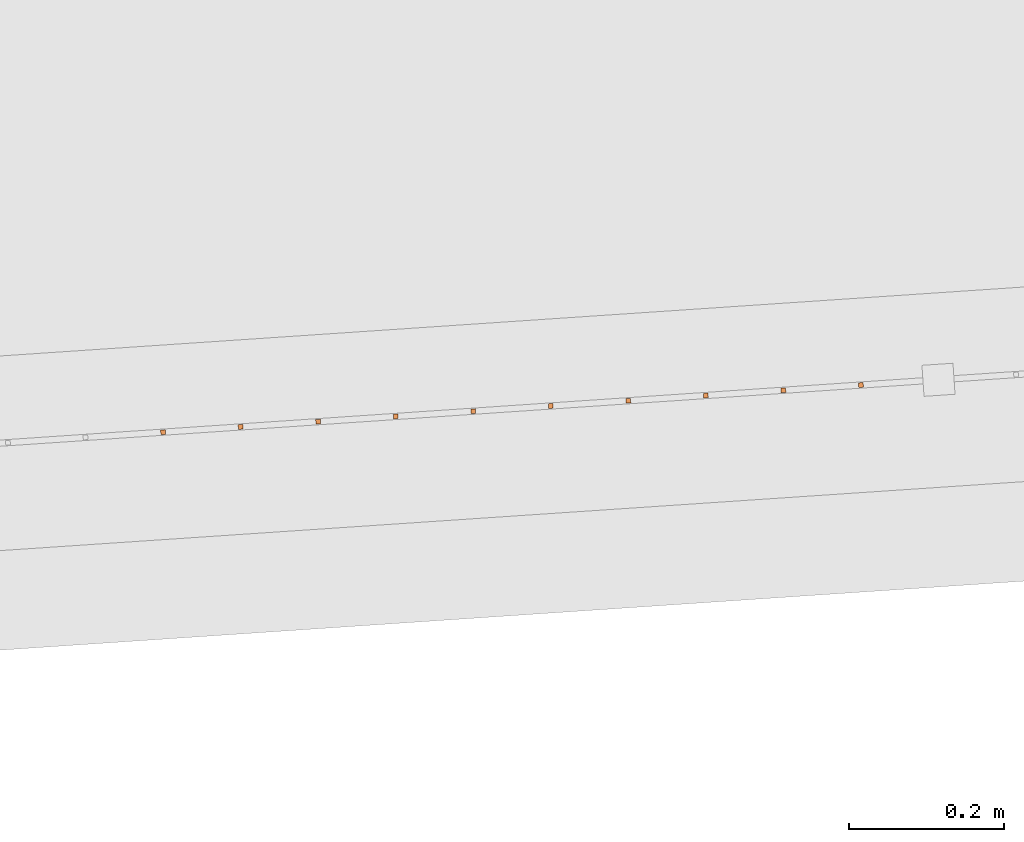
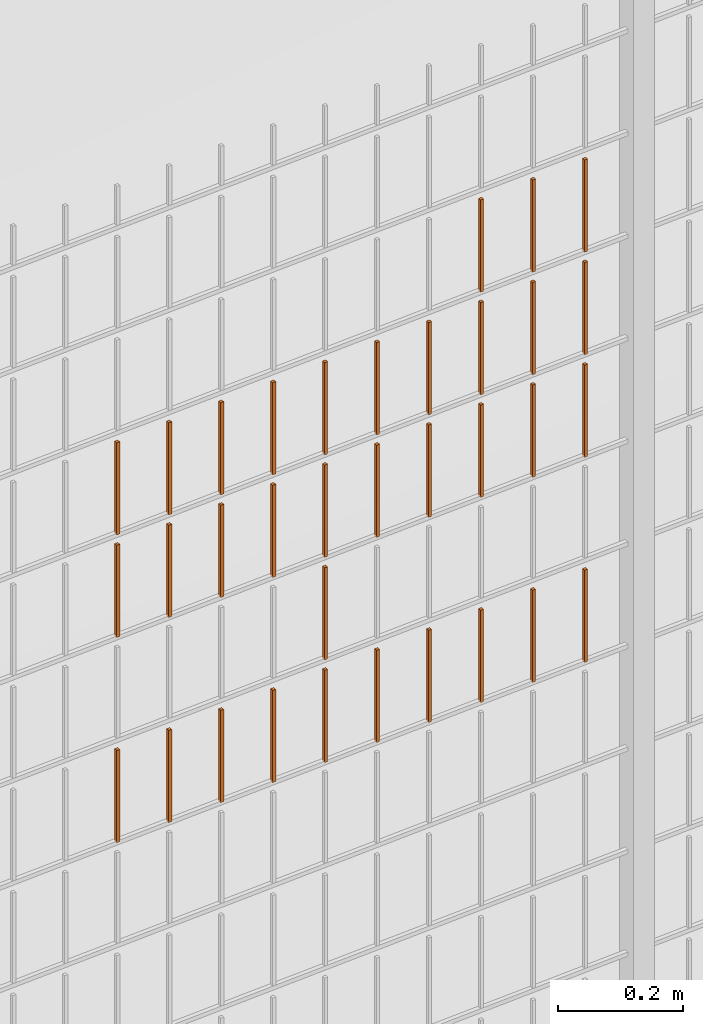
# One storey, part 179 of 1809: 34 proxies, 1 element without a shape of its own.
"""IFC2X3 building model written with IfcOpenShell, lengths in millimetres."""

from ifc_helpers import new_model, entity, si_unit, converted_unit, derived_unit, money_unit, direction, frame, origin_with_axes, place, context, subcontext, project, spatial, faceted_brep, source, transform, mapped, material, type_object, element, aggregate, save


model = new_model("IFC2X3")

# Units and contexts
model_context = context("Model", 3, precision=0.01, world=origin_with_axes(), true_north=direction((0.0, 1.0)))
body_context = subcontext(model_context, "Body", "Model", "MODEL_VIEW")
ifc_project = project(units=[si_unit("LENGTHUNIT", "METRE", prefix="MILLI"), si_unit("AREAUNIT", "SQUARE_METRE"), si_unit("VOLUMEUNIT", "CUBIC_METRE"), converted_unit("PLANEANGLEUNIT", "DEGREE", entity("IfcPlaneAngleMeasure", 0.0174532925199), si_unit("PLANEANGLEUNIT", "RADIAN"), dimensions=[0, 0, 0, 0, 0, 0, 0]), si_unit("SOLIDANGLEUNIT", "STERADIAN"), money_unit("EUR"), converted_unit("TIMEUNIT", "Year", entity("IfcTimeMeasure", 31556926.0), si_unit("TIMEUNIT", "SECOND"), dimensions=[0, 0, 1, 0, 0, 0, 0]), si_unit("MASSUNIT", "GRAM", prefix="KILO"), si_unit("THERMODYNAMICTEMPERATUREUNIT", "DEGREE_CELSIUS"), si_unit("LUMINOUSINTENSITYUNIT", "LUMEN"), si_unit("ENERGYUNIT", "JOULE", prefix="MEGA"), derived_unit("THERMALCONDUCTANCEUNIT", [(si_unit("POWERUNIT", "WATT"), 1), (si_unit("LENGTHUNIT", "METRE"), -1), (si_unit("THERMODYNAMICTEMPERATUREUNIT", "KELVIN"), -1)]), derived_unit("SPECIFICHEATCAPACITYUNIT", [(si_unit("ENERGYUNIT", "JOULE"), 1), (si_unit("MASSUNIT", "GRAM", prefix="KILO"), -1), (si_unit("THERMODYNAMICTEMPERATUREUNIT", "KELVIN"), -1)]), derived_unit("MASSDENSITYUNIT", [(si_unit("MASSUNIT", "GRAM", prefix="KILO"), 1), (si_unit("VOLUMEUNIT", "CUBIC_METRE"), -1)])], contexts=[model_context])

# Site, building, storey
site_placement = place(None, origin_with_axes())
site = spatial("IfcSite", under=ifc_project, at=site_placement, Name="Politse- ja Piirivalveameti ning Päästeameti ühishoone", CompositionType="ELEMENT")
building_placement = place(site_placement, origin_with_axes())
building = spatial("IfcBuilding", under=site, at=building_placement, Name="Politse- ja Piirivalveameti ning Päästeameti ühishoone", CompositionType="ELEMENT")
storey_placement = place(building_placement, origin_with_axes())
storey = spatial("IfcBuildingStorey", under=building, at=storey_placement, Name="Esimene korrus", CompositionType="ELEMENT", Elevation=0.0)

# Proxies
building_element_proxy_type_1 = type_object("IfcBuildingElementProxyType", Name="Railing Type", PredefinedType="NOTDEFINED")
proxy_1_placement = place(storey_placement, frame((89252.001212, -29183.4766571, 203.661247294), z_axis=(0.0, 0.0, 1.0), x_axis=(1.0, 0.0, 0.0)))
proxy_1 = element("IfcBuildingElementProxy", 1, at=proxy_1_placement, inside=storey, type_object=building_element_proxy_type_1, Name="PIIRDEAED")
ifc_material = material(Name="ET-03_Raud")
building_element_proxy_type_2 = type_object("IfcBuildingElementProxyType", Name="IfcBuildingElementProxy", PredefinedType="NOTDEFINED")
shared_shape_1 = source(origin_with_axes(), body_context, "Body", "Brep", [
    faceted_brep([(3.0, 3.0, -0.000752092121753), (-3.0, 3.0, -0.000752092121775), (-3.0, 3.0, 179.99926046), (3.0, 3.0, 179.99926046), (3.0, -3.0, 0.000752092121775), (-3.0, -3.0, 0.000752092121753), (-3.0, -3.0, 180.000764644), (3.0, -3.0, 180.000764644)], [[[0, 1, 2, 3]], [[0, 4, 5, 1]], [[1, 5, 6, 2]], [[3, 2, 6, 7]], [[4, 0, 3, 7]], [[5, 4, 7, 6]]]),
])
proxy_2_placement = place(proxy_1_placement, frame((-72262.0280841, -22178.8020516, 809.077205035), z_axis=(0.0, 0.0, 1.0), x_axis=(1.0, 0.0, 0.0)))
proxy_2 = element("IfcBuildingElementProxy", 2, at=proxy_2_placement, type_object=building_element_proxy_type_2, material=ifc_material, Name="BALUSTER - 001", context=body_context, shape_type="MappedRepresentation", body=[
    mapped(shared_shape_1, transform((0.0, 0.0, 0.0), x_axis=(-0.0673926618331, 0.997726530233, 0.0), y_axis=(-0.997726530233, -0.0673926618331, 0.0), z_axis=(0.0, 0.0, 1.0))),
])
shared_shape_2 = source(origin_with_axes(), body_context, "Body", "Brep", [
    faceted_brep([(3.0, 3.0, -0.000752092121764), (-3.0, 3.0, -0.000752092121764), (-3.0, 3.0, 179.99926046), (3.0, 3.0, 179.99926046), (3.0, -3.0, 0.000752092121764), (-3.0, -3.0, 0.000752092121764), (-3.0, -3.0, 180.000764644), (3.0, -3.0, 180.000764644)], [[[0, 1, 2, 3]], [[0, 4, 5, 1]], [[1, 5, 6, 2]], [[3, 2, 6, 7]], [[4, 0, 3, 7]], [[5, 4, 7, 6]]]),
])
proxy_3_placement = place(proxy_1_placement, frame((-72561.3460431, -22199.0198502, 809.001995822), z_axis=(0.0, 0.0, 1.0), x_axis=(1.0, 0.0, 0.0)))
proxy_3 = element("IfcBuildingElementProxy", 3, at=proxy_3_placement, type_object=building_element_proxy_type_2, material=ifc_material, Name="BALUSTER - 001", context=body_context, shape_type="MappedRepresentation", body=[
    mapped(shared_shape_2, transform((0.0, 0.0, 0.0), x_axis=(-0.0673926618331, 0.997726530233, 0.0), y_axis=(-0.997726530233, -0.0673926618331, 0.0), z_axis=(0.0, 0.0, 1.0))),
])
shared_shape_3 = source(origin_with_axes(), body_context, "Body", "Brep", [
    faceted_brep([(3.0, 3.0, -0.000752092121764), (-3.0, 3.0, -0.000752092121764), (-3.0, 3.0, 179.99926046), (3.0, 3.0, 179.99926046), (3.0, -3.0, 0.000752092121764), (-3.0, -3.0, 0.000752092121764), (-3.0, -3.0, 180.000764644), (3.0, -3.0, 180.000764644)], [[[0, 1, 2, 3]], [[0, 4, 5, 1]], [[1, 5, 6, 2]], [[3, 2, 6, 7]], [[4, 0, 3, 7]], [[5, 4, 7, 6]]]),
])
proxy_4_placement = place(proxy_1_placement, frame((-72760.8913492, -22212.4983825, 808.951856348), z_axis=(0.0, 0.0, 1.0), x_axis=(1.0, 0.0, 0.0)))
proxy_4 = element("IfcBuildingElementProxy", 4, at=proxy_4_placement, type_object=building_element_proxy_type_2, material=ifc_material, Name="BALUSTER - 001", context=body_context, shape_type="MappedRepresentation", body=[
    mapped(shared_shape_3, transform((0.0, 0.0, 0.0), x_axis=(-0.0673926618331, 0.997726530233, 0.0), y_axis=(-0.997726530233, -0.0673926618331, 0.0), z_axis=(0.0, 0.0, 1.0))),
])
proxy_5_placement = place(proxy_1_placement, frame((-72760.8913492, -22212.4983825, 1208.95185635), z_axis=(0.0, 0.0, 1.0), x_axis=(1.0, 0.0, 0.0)))
proxy_5 = element("IfcBuildingElementProxy", 5, at=proxy_5_placement, type_object=building_element_proxy_type_2, material=ifc_material, Name="BALUSTER - 001", context=body_context, shape_type="MappedRepresentation", body=[
    mapped(shared_shape_3, transform((0.0, 0.0, 0.0), x_axis=(-0.0673926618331, 0.997726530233, 0.0), y_axis=(-0.997726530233, -0.0673926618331, 0.0), z_axis=(0.0, 0.0, 1.0))),
])
shared_shape_4 = source(origin_with_axes(), body_context, "Body", "Brep", [
    faceted_brep([(3.0, 3.0, -0.000752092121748), (-3.0, 3.0, -0.00075209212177), (-3.0, 3.0, 179.99926046), (3.0, 3.0, 179.99926046), (3.0, -3.0, 0.00075209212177), (-3.0, -3.0, 0.000752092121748), (-3.0, -3.0, 180.000764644), (3.0, -3.0, 180.000764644)], [[[0, 1, 2, 3]], [[0, 4, 5, 1]], [[1, 5, 6, 2]], [[3, 2, 6, 7]], [[4, 0, 3, 7]], [[5, 4, 7, 6]]]),
])
proxy_6_placement = place(proxy_1_placement, frame((-72361.8007371, -22185.5413178, 809.052135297), z_axis=(0.0, 0.0, 1.0), x_axis=(1.0, 0.0, 0.0)))
proxy_6 = element("IfcBuildingElementProxy", 6, at=proxy_6_placement, type_object=building_element_proxy_type_2, material=ifc_material, Name="BALUSTER - 001", context=body_context, shape_type="MappedRepresentation", body=[
    mapped(shared_shape_4, transform((0.0, 0.0, 0.0), x_axis=(-0.0673926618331, 0.997726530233, 0.0), y_axis=(-0.997726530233, -0.0673926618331, 0.0), z_axis=(0.0, 0.0, 1.0))),
])
proxy_7_placement = place(proxy_1_placement, frame((-73060.2093082, -22232.7161811, 1208.87664714), z_axis=(0.0, 0.0, 1.0), x_axis=(1.0, 0.0, 0.0)))
proxy_7 = element("IfcBuildingElementProxy", 7, at=proxy_7_placement, type_object=building_element_proxy_type_2, material=ifc_material, Name="BALUSTER - 001", context=body_context, shape_type="MappedRepresentation", body=[
    mapped(shared_shape_4, transform((0.0, 0.0, 0.0), x_axis=(-0.0673926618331, 0.997726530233, 0.0), y_axis=(-0.997726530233, -0.0673926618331, 0.0), z_axis=(0.0, 0.0, 1.0))),
])
shared_shape_5 = source(origin_with_axes(), body_context, "Body", "Brep", [
    faceted_brep([(3.0, 3.0, -0.000752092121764), (-3.0, 3.0, -0.000752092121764), (-3.0, 3.0, 179.99926046), (3.0, 3.0, 179.99926046), (3.0, -3.0, 0.000752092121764), (-3.0, -3.0, 0.000752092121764), (-3.0, -3.0, 180.000764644), (3.0, -3.0, 180.000764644)], [[[0, 1, 2, 3]], [[0, 4, 5, 1]], [[1, 5, 6, 2]], [[3, 2, 6, 7]], [[4, 0, 3, 7]], [[5, 4, 7, 6]]]),
])
proxy_8_placement = place(proxy_1_placement, frame((-72661.1186962, -22205.7591164, 808.976926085), z_axis=(0.0, 0.0, 1.0), x_axis=(1.0, 0.0, 0.0)))
proxy_8 = element("IfcBuildingElementProxy", 8, at=proxy_8_placement, type_object=building_element_proxy_type_2, material=ifc_material, Name="BALUSTER - 001", context=body_context, shape_type="MappedRepresentation", body=[
    mapped(shared_shape_5, transform((0.0, 0.0, 0.0), x_axis=(-0.0673926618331, 0.997726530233, 0.0), y_axis=(-0.997726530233, -0.0673926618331, 0.0), z_axis=(0.0, 0.0, 1.0))),
])
shared_shape_6 = source(origin_with_axes(), body_context, "Body", "Brep", [
    faceted_brep([(3.0, 3.0, -0.000752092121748), (-3.0, 3.0, -0.00075209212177), (-3.0, 3.0, 179.99926046), (3.0, 3.0, 179.99926046), (3.0, -3.0, 0.00075209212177), (-3.0, -3.0, 0.000752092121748), (-3.0, -3.0, 180.000764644), (3.0, -3.0, 180.000764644)], [[[0, 1, 2, 3]], [[0, 4, 5, 1]], [[1, 5, 6, 2]], [[3, 2, 6, 7]], [[4, 0, 3, 7]], [[5, 4, 7, 6]]]),
])
proxy_9_placement = place(proxy_1_placement, frame((-72461.5733901, -22192.280584, 809.02706556), z_axis=(0.0, 0.0, 1.0), x_axis=(1.0, 0.0, 0.0)))
proxy_9 = element("IfcBuildingElementProxy", 9, at=proxy_9_placement, type_object=building_element_proxy_type_2, material=ifc_material, Name="BALUSTER - 001", context=body_context, shape_type="MappedRepresentation", body=[
    mapped(shared_shape_6, transform((0.0, 0.0, 0.0), x_axis=(-0.0673926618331, 0.997726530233, 0.0), y_axis=(-0.997726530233, -0.0673926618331, 0.0), z_axis=(0.0, 0.0, 1.0))),
])
proxy_10_placement = place(proxy_1_placement, frame((-73159.9819613, -22239.4554473, 808.851577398), z_axis=(0.0, 0.0, 1.0), x_axis=(1.0, 0.0, 0.0)))
proxy_10 = element("IfcBuildingElementProxy", 10, at=proxy_10_placement, type_object=building_element_proxy_type_2, material=ifc_material, Name="BALUSTER - 001", context=body_context, shape_type="MappedRepresentation", body=[
    mapped(shared_shape_6, transform((0.0, 0.0, 0.0), x_axis=(-0.0673926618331, 0.997726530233, 0.0), y_axis=(-0.997726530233, -0.0673926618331, 0.0), z_axis=(0.0, 0.0, 1.0))),
])
proxy_11_placement = place(proxy_1_placement, frame((-72461.5733901, -22192.280584, 1209.02706556), z_axis=(0.0, 0.0, 1.0), x_axis=(1.0, 0.0, 0.0)))
proxy_11 = element("IfcBuildingElementProxy", 11, at=proxy_11_placement, type_object=building_element_proxy_type_2, material=ifc_material, Name="BALUSTER - 001", context=body_context, shape_type="MappedRepresentation", body=[
    mapped(shared_shape_6, transform((0.0, 0.0, 0.0), x_axis=(-0.0673926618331, 0.997726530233, 0.0), y_axis=(-0.997726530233, -0.0673926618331, 0.0), z_axis=(0.0, 0.0, 1.0))),
])
shared_shape_7 = source(origin_with_axes(), body_context, "Body", "Brep", [
    faceted_brep([(3.0, 3.0, -0.000752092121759), (-3.0, 3.0, -0.000752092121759), (-3.0, 3.0, 179.99926046), (3.0, 3.0, 179.99926046), (3.0, -3.0, 0.000752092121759), (-3.0, -3.0, 0.000752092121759), (-3.0, -3.0, 180.000764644), (3.0, -3.0, 180.000764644)], [[[0, 1, 2, 3]], [[0, 4, 5, 1]], [[1, 5, 6, 2]], [[3, 2, 6, 7]], [[4, 0, 3, 7]], [[5, 4, 7, 6]]]),
])
proxy_12_placement = place(proxy_1_placement, frame((-72661.1186962, -22205.7591164, 1208.97692608), z_axis=(0.0, 0.0, 1.0), x_axis=(1.0, 0.0, 0.0)))
proxy_12 = element("IfcBuildingElementProxy", 12, at=proxy_12_placement, type_object=building_element_proxy_type_2, material=ifc_material, Name="BALUSTER - 001", context=body_context, shape_type="MappedRepresentation", body=[
    mapped(shared_shape_7, transform((0.0, 0.0, 0.0), x_axis=(-0.0673926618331, 0.997726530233, 0.0), y_axis=(-0.997726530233, -0.0673926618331, 0.0), z_axis=(0.0, 0.0, 1.0))),
])
shared_shape_8 = source(origin_with_axes(), body_context, "Body", "Brep", [
    faceted_brep([(3.0, 3.0, -0.000752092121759), (-3.0, 3.0, -0.000752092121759), (-3.0, 3.0, 179.99926046), (3.0, 3.0, 179.99926046), (3.0, -3.0, 0.000752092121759), (-3.0, -3.0, 0.000752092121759), (-3.0, -3.0, 180.000764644), (3.0, -3.0, 180.000764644)], [[[0, 1, 2, 3]], [[0, 4, 5, 1]], [[1, 5, 6, 2]], [[3, 2, 6, 7]], [[4, 0, 3, 7]], [[5, 4, 7, 6]]]),
])
proxy_13_placement = place(proxy_1_placement, frame((-72561.3460431, -22199.0198502, 1209.00199582), z_axis=(0.0, 0.0, 1.0), x_axis=(1.0, 0.0, 0.0)))
proxy_13 = element("IfcBuildingElementProxy", 13, at=proxy_13_placement, type_object=building_element_proxy_type_2, material=ifc_material, Name="BALUSTER - 001", context=body_context, shape_type="MappedRepresentation", body=[
    mapped(shared_shape_8, transform((0.0, 0.0, 0.0), x_axis=(-0.0673926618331, 0.997726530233, 0.0), y_axis=(-0.997726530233, -0.0673926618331, 0.0), z_axis=(0.0, 0.0, 1.0))),
])
shared_shape_9 = source(origin_with_axes(), body_context, "Body", "Brep", [
    faceted_brep([(3.0, 3.0, -0.000752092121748), (-3.0, 3.0, -0.00075209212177), (-3.0, 3.0, 179.99926046), (3.0, 3.0, 179.99926046), (3.0, -3.0, 0.00075209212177), (-3.0, -3.0, 0.000752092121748), (-3.0, -3.0, 180.000764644), (3.0, -3.0, 180.000764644)], [[[0, 1, 2, 3]], [[0, 4, 5, 1]], [[1, 5, 6, 2]], [[3, 2, 6, 7]], [[4, 0, 3, 7]], [[5, 4, 7, 6]]]),
])
proxy_14_placement = place(proxy_1_placement, frame((-72361.8007371, -22185.5413178, 1209.0521353), z_axis=(0.0, 0.0, 1.0), x_axis=(1.0, 0.0, 0.0)))
proxy_14 = element("IfcBuildingElementProxy", 14, at=proxy_14_placement, type_object=building_element_proxy_type_2, material=ifc_material, Name="BALUSTER - 001", context=body_context, shape_type="MappedRepresentation", body=[
    mapped(shared_shape_9, transform((0.0, 0.0, 0.0), x_axis=(-0.0673926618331, 0.997726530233, 0.0), y_axis=(-0.997726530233, -0.0673926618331, 0.0), z_axis=(0.0, 0.0, 1.0))),
])
shared_shape_10 = source(origin_with_axes(), body_context, "Body", "Brep", [
    faceted_brep([(3.0, 3.0, -0.000752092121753), (-3.0, 3.0, -0.000752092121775), (-3.0, 3.0, 179.99926046), (3.0, 3.0, 179.99926046), (3.0, -3.0, 0.000752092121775), (-3.0, -3.0, 0.000752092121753), (-3.0, -3.0, 180.000764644), (3.0, -3.0, 180.000764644)], [[[0, 1, 2, 3]], [[0, 4, 5, 1]], [[1, 5, 6, 2]], [[3, 2, 6, 7]], [[4, 0, 3, 7]], [[5, 4, 7, 6]]]),
])
proxy_15_placement = place(proxy_1_placement, frame((-73060.2093082, -22232.7161811, 808.876647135), z_axis=(0.0, 0.0, 1.0), x_axis=(1.0, 0.0, 0.0)))
proxy_15 = element("IfcBuildingElementProxy", 15, at=proxy_15_placement, type_object=building_element_proxy_type_2, material=ifc_material, Name="BALUSTER - 001", context=body_context, shape_type="MappedRepresentation", body=[
    mapped(shared_shape_10, transform((0.0, 0.0, 0.0), x_axis=(-0.0673926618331, 0.997726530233, 0.0), y_axis=(-0.997726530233, -0.0673926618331, 0.0), z_axis=(0.0, 0.0, 1.0))),
])
shared_shape_11 = source(origin_with_axes(), body_context, "Body", "Brep", [
    faceted_brep([(3.0, 3.0, -0.000752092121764), (-3.0, 3.0, -0.000752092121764), (-3.0, 3.0, 179.99926046), (3.0, 3.0, 179.99926046), (3.0, -3.0, 0.000752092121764), (-3.0, -3.0, 0.000752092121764), (-3.0, -3.0, 180.000764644), (3.0, -3.0, 180.000764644)], [[[0, 1, 2, 3]], [[0, 4, 5, 1]], [[1, 5, 6, 2]], [[3, 2, 6, 7]], [[4, 0, 3, 7]], [[5, 4, 7, 6]]]),
])
proxy_16_placement = place(proxy_1_placement, frame((-72760.8913492, -22212.4983825, 1408.95185635), z_axis=(0.0, 0.0, 1.0), x_axis=(1.0, 0.0, 0.0)))
proxy_16 = element("IfcBuildingElementProxy", 16, at=proxy_16_placement, type_object=building_element_proxy_type_2, material=ifc_material, Name="BALUSTER - 001", context=body_context, shape_type="MappedRepresentation", body=[
    mapped(shared_shape_11, transform((0.0, 0.0, 0.0), x_axis=(-0.0673926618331, 0.997726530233, 0.0), y_axis=(-0.997726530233, -0.0673926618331, 0.0), z_axis=(0.0, 0.0, 1.0))),
])
shared_shape_12 = source(origin_with_axes(), body_context, "Body", "Brep", [
    faceted_brep([(3.0, 3.0, -0.000752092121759), (-3.0, 3.0, -0.000752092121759), (-3.0, 3.0, 179.99926046), (3.0, 3.0, 179.99926046), (3.0, -3.0, 0.000752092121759), (-3.0, -3.0, 0.000752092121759), (-3.0, -3.0, 180.000764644), (3.0, -3.0, 180.000764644)], [[[0, 1, 2, 3]], [[0, 4, 5, 1]], [[1, 5, 6, 2]], [[3, 2, 6, 7]], [[4, 0, 3, 7]], [[5, 4, 7, 6]]]),
])
proxy_17_placement = place(proxy_1_placement, frame((-72661.1186962, -22205.7591164, 1408.97692608), z_axis=(0.0, 0.0, 1.0), x_axis=(1.0, 0.0, 0.0)))
proxy_17 = element("IfcBuildingElementProxy", 17, at=proxy_17_placement, type_object=building_element_proxy_type_2, material=ifc_material, Name="BALUSTER - 001", context=body_context, shape_type="MappedRepresentation", body=[
    mapped(shared_shape_12, transform((0.0, 0.0, 0.0), x_axis=(-0.0673926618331, 0.997726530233, 0.0), y_axis=(-0.997726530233, -0.0673926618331, 0.0), z_axis=(0.0, 0.0, 1.0))),
])
shared_shape_13 = source(origin_with_axes(), body_context, "Body", "Brep", [
    faceted_brep([(3.0, 3.0, -0.000752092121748), (-3.0, 3.0, -0.00075209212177), (-3.0, 3.0, 179.99926046), (3.0, 3.0, 179.99926046), (3.0, -3.0, 0.00075209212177), (-3.0, -3.0, 0.000752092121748), (-3.0, -3.0, 180.000764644), (3.0, -3.0, 180.000764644)], [[[0, 1, 2, 3]], [[0, 4, 5, 1]], [[1, 5, 6, 2]], [[3, 2, 6, 7]], [[4, 0, 3, 7]], [[5, 4, 7, 6]]]),
])
proxy_18_placement = place(proxy_1_placement, frame((-72361.8007371, -22185.5413178, 1409.0521353), z_axis=(0.0, 0.0, 1.0), x_axis=(1.0, 0.0, 0.0)))
proxy_18 = element("IfcBuildingElementProxy", 18, at=proxy_18_placement, type_object=building_element_proxy_type_2, material=ifc_material, Name="BALUSTER - 001", context=body_context, shape_type="MappedRepresentation", body=[
    mapped(shared_shape_13, transform((0.0, 0.0, 0.0), x_axis=(-0.0673926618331, 0.997726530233, 0.0), y_axis=(-0.997726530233, -0.0673926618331, 0.0), z_axis=(0.0, 0.0, 1.0))),
])
proxy_19_placement = place(proxy_1_placement, frame((-72361.8007371, -22185.5413178, 1609.0521353), z_axis=(0.0, 0.0, 1.0), x_axis=(1.0, 0.0, 0.0)))
proxy_19 = element("IfcBuildingElementProxy", 19, at=proxy_19_placement, type_object=building_element_proxy_type_2, material=ifc_material, Name="BALUSTER - 001", context=body_context, shape_type="MappedRepresentation", body=[
    mapped(shared_shape_13, transform((0.0, 0.0, 0.0), x_axis=(-0.0673926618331, 0.997726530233, 0.0), y_axis=(-0.997726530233, -0.0673926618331, 0.0), z_axis=(0.0, 0.0, 1.0))),
])
shared_shape_14 = source(origin_with_axes(), body_context, "Body", "Brep", [
    faceted_brep([(3.0, 3.0, -0.000752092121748), (-3.0, 3.0, -0.00075209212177), (-3.0, 3.0, 179.99926046), (3.0, 3.0, 179.99926046), (3.0, -3.0, 0.00075209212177), (-3.0, -3.0, 0.000752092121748), (-3.0, -3.0, 180.000764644), (3.0, -3.0, 180.000764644)], [[[0, 1, 2, 3]], [[0, 4, 5, 1]], [[1, 5, 6, 2]], [[3, 2, 6, 7]], [[4, 0, 3, 7]], [[5, 4, 7, 6]]]),
])
proxy_20_placement = place(proxy_1_placement, frame((-72461.5733901, -22192.280584, 1409.02706556), z_axis=(0.0, 0.0, 1.0), x_axis=(1.0, 0.0, 0.0)))
proxy_20 = element("IfcBuildingElementProxy", 20, at=proxy_20_placement, type_object=building_element_proxy_type_2, material=ifc_material, Name="BALUSTER - 001", context=body_context, shape_type="MappedRepresentation", body=[
    mapped(shared_shape_14, transform((0.0, 0.0, 0.0), x_axis=(-0.0673926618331, 0.997726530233, 0.0), y_axis=(-0.997726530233, -0.0673926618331, 0.0), z_axis=(0.0, 0.0, 1.0))),
])
proxy_21_placement = place(proxy_1_placement, frame((-72461.5733901, -22192.280584, 1609.02706556), z_axis=(0.0, 0.0, 1.0), x_axis=(1.0, 0.0, 0.0)))
proxy_21 = element("IfcBuildingElementProxy", 21, at=proxy_21_placement, type_object=building_element_proxy_type_2, material=ifc_material, Name="BALUSTER - 001", context=body_context, shape_type="MappedRepresentation", body=[
    mapped(shared_shape_14, transform((0.0, 0.0, 0.0), x_axis=(-0.0673926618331, 0.997726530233, 0.0), y_axis=(-0.997726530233, -0.0673926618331, 0.0), z_axis=(0.0, 0.0, 1.0))),
])
shared_shape_15 = source(origin_with_axes(), body_context, "Body", "Brep", [
    faceted_brep([(3.0, 3.0, -0.000752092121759), (-3.0, 3.0, -0.000752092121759), (-3.0, 3.0, 179.99926046), (3.0, 3.0, 179.99926046), (3.0, -3.0, 0.000752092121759), (-3.0, -3.0, 0.000752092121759), (-3.0, -3.0, 180.000764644), (3.0, -3.0, 180.000764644)], [[[0, 1, 2, 3]], [[0, 4, 5, 1]], [[1, 5, 6, 2]], [[3, 2, 6, 7]], [[4, 0, 3, 7]], [[5, 4, 7, 6]]]),
])
proxy_22_placement = place(proxy_1_placement, frame((-72262.0280841, -22178.8020516, 1209.07720503), z_axis=(0.0, 0.0, 1.0), x_axis=(1.0, 0.0, 0.0)))
proxy_22 = element("IfcBuildingElementProxy", 22, at=proxy_22_placement, type_object=building_element_proxy_type_2, material=ifc_material, Name="BALUSTER - 001", context=body_context, shape_type="MappedRepresentation", body=[
    mapped(shared_shape_15, transform((0.0, 0.0, 0.0), x_axis=(-0.0673926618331, 0.997726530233, 0.0), y_axis=(-0.997726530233, -0.0673926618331, 0.0), z_axis=(0.0, 0.0, 1.0))),
])
shared_shape_16 = source(origin_with_axes(), body_context, "Body", "Brep", [
    faceted_brep([(3.0, 3.0, -0.000752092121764), (-3.0, 3.0, -0.000752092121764), (-3.0, 3.0, 179.99926046), (3.0, 3.0, 179.99926046), (3.0, -3.0, 0.000752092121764), (-3.0, -3.0, 0.000752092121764), (-3.0, -3.0, 180.000764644), (3.0, -3.0, 180.000764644)], [[[0, 1, 2, 3]], [[0, 4, 5, 1]], [[1, 5, 6, 2]], [[3, 2, 6, 7]], [[4, 0, 3, 7]], [[5, 4, 7, 6]]]),
])
proxy_23_placement = place(proxy_1_placement, frame((-73159.9819613, -22239.4554473, 1208.8515774), z_axis=(0.0, 0.0, 1.0), x_axis=(1.0, 0.0, 0.0)))
proxy_23 = element("IfcBuildingElementProxy", 23, at=proxy_23_placement, type_object=building_element_proxy_type_2, material=ifc_material, Name="BALUSTER - 001", context=body_context, shape_type="MappedRepresentation", body=[
    mapped(shared_shape_16, transform((0.0, 0.0, 0.0), x_axis=(-0.0673926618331, 0.997726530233, 0.0), y_axis=(-0.997726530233, -0.0673926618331, 0.0), z_axis=(0.0, 0.0, 1.0))),
])
shared_shape_17 = source(origin_with_axes(), body_context, "Body", "Brep", [
    faceted_brep([(3.0, 3.0, -0.000752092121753), (-3.0, 3.0, -0.000752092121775), (-3.0, 3.0, 179.99926046), (3.0, 3.0, 179.99926046), (3.0, -3.0, 0.000752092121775), (-3.0, -3.0, 0.000752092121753), (-3.0, -3.0, 180.000764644), (3.0, -3.0, 180.000764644)], [[[0, 1, 2, 3]], [[0, 4, 5, 1]], [[1, 5, 6, 2]], [[3, 2, 6, 7]], [[4, 0, 3, 7]], [[5, 4, 7, 6]]]),
])
proxy_24_placement = place(proxy_1_placement, frame((-72860.6640022, -22219.2376487, 808.92678661), z_axis=(0.0, 0.0, 1.0), x_axis=(1.0, 0.0, 0.0)))
proxy_24 = element("IfcBuildingElementProxy", 24, at=proxy_24_placement, type_object=building_element_proxy_type_2, material=ifc_material, Name="BALUSTER - 001", context=body_context, shape_type="MappedRepresentation", body=[
    mapped(shared_shape_17, transform((0.0, 0.0, 0.0), x_axis=(-0.0673926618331, 0.997726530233, 0.0), y_axis=(-0.997726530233, -0.0673926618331, 0.0), z_axis=(0.0, 0.0, 1.0))),
])
shared_shape_18 = source(origin_with_axes(), body_context, "Body", "Brep", [
    faceted_brep([(3.0, 3.0, -0.000752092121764), (-3.0, 3.0, -0.000752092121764), (-3.0, 3.0, 179.99926046), (3.0, 3.0, 179.99926046), (3.0, -3.0, 0.000752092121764), (-3.0, -3.0, 0.000752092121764), (-3.0, -3.0, 180.000764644), (3.0, -3.0, 180.000764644)], [[[0, 1, 2, 3]], [[0, 4, 5, 1]], [[1, 5, 6, 2]], [[3, 2, 6, 7]], [[4, 0, 3, 7]], [[5, 4, 7, 6]]]),
])
proxy_25_placement = place(proxy_1_placement, frame((-73159.9819613, -22239.4554473, 1408.8515774), z_axis=(0.0, 0.0, 1.0), x_axis=(1.0, 0.0, 0.0)))
proxy_25 = element("IfcBuildingElementProxy", 25, at=proxy_25_placement, type_object=building_element_proxy_type_2, material=ifc_material, Name="BALUSTER - 001", context=body_context, shape_type="MappedRepresentation", body=[
    mapped(shared_shape_18, transform((0.0, 0.0, 0.0), x_axis=(-0.0673926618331, 0.997726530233, 0.0), y_axis=(-0.997726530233, -0.0673926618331, 0.0), z_axis=(0.0, 0.0, 1.0))),
])
shared_shape_19 = source(origin_with_axes(), body_context, "Body", "Brep", [
    faceted_brep([(3.0, 3.0, -0.000752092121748), (-3.0, 3.0, -0.00075209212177), (-3.0, 3.0, 179.99926046), (3.0, 3.0, 179.99926046), (3.0, -3.0, 0.00075209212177), (-3.0, -3.0, 0.000752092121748), (-3.0, -3.0, 180.000764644), (3.0, -3.0, 180.000764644)], [[[0, 1, 2, 3]], [[0, 4, 5, 1]], [[1, 5, 6, 2]], [[3, 2, 6, 7]], [[4, 0, 3, 7]], [[5, 4, 7, 6]]]),
])
proxy_26_placement = place(proxy_1_placement, frame((-72960.4366552, -22225.9769149, 1208.90171687), z_axis=(0.0, 0.0, 1.0), x_axis=(1.0, 0.0, 0.0)))
proxy_26 = element("IfcBuildingElementProxy", 26, at=proxy_26_placement, type_object=building_element_proxy_type_2, material=ifc_material, Name="BALUSTER - 001", context=body_context, shape_type="MappedRepresentation", body=[
    mapped(shared_shape_19, transform((0.0, 0.0, 0.0), x_axis=(-0.0673926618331, 0.997726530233, 0.0), y_axis=(-0.997726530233, -0.0673926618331, 0.0), z_axis=(0.0, 0.0, 1.0))),
])
shared_shape_20 = source(origin_with_axes(), body_context, "Body", "Brep", [
    faceted_brep([(3.0, 3.0, -0.000752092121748), (-3.0, 3.0, -0.00075209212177), (-3.0, 3.0, 179.99926046), (3.0, 3.0, 179.99926046), (3.0, -3.0, 0.00075209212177), (-3.0, -3.0, 0.000752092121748), (-3.0, -3.0, 180.000764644), (3.0, -3.0, 180.000764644)], [[[0, 1, 2, 3]], [[0, 4, 5, 1]], [[1, 5, 6, 2]], [[3, 2, 6, 7]], [[4, 0, 3, 7]], [[5, 4, 7, 6]]]),
])
proxy_27_placement = place(proxy_1_placement, frame((-72960.4366552, -22225.9769149, 1408.90171687), z_axis=(0.0, 0.0, 1.0), x_axis=(1.0, 0.0, 0.0)))
proxy_27 = element("IfcBuildingElementProxy", 27, at=proxy_27_placement, type_object=building_element_proxy_type_2, material=ifc_material, Name="BALUSTER - 001", context=body_context, shape_type="MappedRepresentation", body=[
    mapped(shared_shape_20, transform((0.0, 0.0, 0.0), x_axis=(-0.0673926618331, 0.997726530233, 0.0), y_axis=(-0.997726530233, -0.0673926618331, 0.0), z_axis=(0.0, 0.0, 1.0))),
])
shared_shape_21 = source(origin_with_axes(), body_context, "Body", "Brep", [
    faceted_brep([(3.0, 3.0, -0.000752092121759), (-3.0, 3.0, -0.000752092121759), (-3.0, 3.0, 179.99926046), (3.0, 3.0, 179.99926046), (3.0, -3.0, 0.000752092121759), (-3.0, -3.0, 0.000752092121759), (-3.0, -3.0, 180.000764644), (3.0, -3.0, 180.000764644)], [[[0, 1, 2, 3]], [[0, 4, 5, 1]], [[1, 5, 6, 2]], [[3, 2, 6, 7]], [[4, 0, 3, 7]], [[5, 4, 7, 6]]]),
])
proxy_28_placement = place(proxy_1_placement, frame((-72262.0280841, -22178.8020516, 1409.07720503), z_axis=(0.0, 0.0, 1.0), x_axis=(1.0, 0.0, 0.0)))
proxy_28 = element("IfcBuildingElementProxy", 28, at=proxy_28_placement, type_object=building_element_proxy_type_2, material=ifc_material, Name="BALUSTER - 001", context=body_context, shape_type="MappedRepresentation", body=[
    mapped(shared_shape_21, transform((0.0, 0.0, 0.0), x_axis=(-0.0673926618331, 0.997726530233, 0.0), y_axis=(-0.997726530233, -0.0673926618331, 0.0), z_axis=(0.0, 0.0, 1.0))),
])
proxy_29_placement = place(proxy_1_placement, frame((-72262.0280841, -22178.8020516, 1609.07720503), z_axis=(0.0, 0.0, 1.0), x_axis=(1.0, 0.0, 0.0)))
proxy_29 = element("IfcBuildingElementProxy", 29, at=proxy_29_placement, type_object=building_element_proxy_type_2, material=ifc_material, Name="BALUSTER - 001", context=body_context, shape_type="MappedRepresentation", body=[
    mapped(shared_shape_21, transform((0.0, 0.0, 0.0), x_axis=(-0.0673926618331, 0.997726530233, 0.0), y_axis=(-0.997726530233, -0.0673926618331, 0.0), z_axis=(0.0, 0.0, 1.0))),
])
shared_shape_22 = source(origin_with_axes(), body_context, "Body", "Brep", [
    faceted_brep([(3.0, 3.0, -0.000752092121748), (-3.0, 3.0, -0.00075209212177), (-3.0, 3.0, 179.99926046), (3.0, 3.0, 179.99926046), (3.0, -3.0, 0.00075209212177), (-3.0, -3.0, 0.000752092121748), (-3.0, -3.0, 180.000764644), (3.0, -3.0, 180.000764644)], [[[0, 1, 2, 3]], [[0, 4, 5, 1]], [[1, 5, 6, 2]], [[3, 2, 6, 7]], [[4, 0, 3, 7]], [[5, 4, 7, 6]]]),
])
proxy_30_placement = place(proxy_1_placement, frame((-72960.4366552, -22225.9769149, 808.901716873), z_axis=(0.0, 0.0, 1.0), x_axis=(1.0, 0.0, 0.0)))
proxy_30 = element("IfcBuildingElementProxy", 30, at=proxy_30_placement, type_object=building_element_proxy_type_2, material=ifc_material, Name="BALUSTER - 001", context=body_context, shape_type="MappedRepresentation", body=[
    mapped(shared_shape_22, transform((0.0, 0.0, 0.0), x_axis=(-0.0673926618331, 0.997726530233, 0.0), y_axis=(-0.997726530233, -0.0673926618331, 0.0), z_axis=(0.0, 0.0, 1.0))),
])
shared_shape_23 = source(origin_with_axes(), body_context, "Body", "Brep", [
    faceted_brep([(3.0, 3.0, -0.000752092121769), (-3.0, 3.0, -0.000752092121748), (-3.0, 3.0, 179.99926046), (3.0, 3.0, 179.99926046), (3.0, -3.0, 0.000752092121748), (-3.0, -3.0, 0.000752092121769), (-3.0, -3.0, 180.000764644), (3.0, -3.0, 180.000764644)], [[[0, 1, 2, 3]], [[0, 4, 5, 1]], [[1, 5, 6, 2]], [[3, 2, 6, 7]], [[4, 0, 3, 7]], [[5, 4, 7, 6]]]),
])
proxy_31_placement = place(proxy_1_placement, frame((-72860.6640022, -22219.2376487, 1208.92678661), z_axis=(0.0, 0.0, 1.0), x_axis=(1.0, 0.0, 0.0)))
proxy_31 = element("IfcBuildingElementProxy", 31, at=proxy_31_placement, type_object=building_element_proxy_type_2, material=ifc_material, Name="BALUSTER - 001", context=body_context, shape_type="MappedRepresentation", body=[
    mapped(shared_shape_23, transform((0.0, 0.0, 0.0), x_axis=(-0.0673926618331, 0.997726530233, 0.0), y_axis=(-0.997726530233, -0.0673926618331, 0.0), z_axis=(0.0, 0.0, 1.0))),
])
shared_shape_24 = source(origin_with_axes(), body_context, "Body", "Brep", [
    faceted_brep([(3.0, 3.0, -0.000752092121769), (-3.0, 3.0, -0.000752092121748), (-3.0, 3.0, 179.99926046), (3.0, 3.0, 179.99926046), (3.0, -3.0, 0.000752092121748), (-3.0, -3.0, 0.000752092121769), (-3.0, -3.0, 180.000764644), (3.0, -3.0, 180.000764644)], [[[0, 1, 2, 3]], [[0, 4, 5, 1]], [[1, 5, 6, 2]], [[3, 2, 6, 7]], [[4, 0, 3, 7]], [[5, 4, 7, 6]]]),
])
proxy_32_placement = place(proxy_1_placement, frame((-72860.6640022, -22219.2376487, 1408.92678661), z_axis=(0.0, 0.0, 1.0), x_axis=(1.0, 0.0, 0.0)))
proxy_32 = element("IfcBuildingElementProxy", 32, at=proxy_32_placement, type_object=building_element_proxy_type_2, material=ifc_material, Name="BALUSTER - 001", context=body_context, shape_type="MappedRepresentation", body=[
    mapped(shared_shape_24, transform((0.0, 0.0, 0.0), x_axis=(-0.0673926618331, 0.997726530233, 0.0), y_axis=(-0.997726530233, -0.0673926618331, 0.0), z_axis=(0.0, 0.0, 1.0))),
])
shared_shape_25 = source(origin_with_axes(), body_context, "Body", "Brep", [
    faceted_brep([(3.0, 3.0, -0.000752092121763), (-3.0, 3.0, -0.000752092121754), (-3.00000000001, 3.0, 179.99926046), (2.99999999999, 3.0, 179.99926046), (3.0, -3.0, 0.000752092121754), (-3.0, -3.0, 0.000752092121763), (-3.00000000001, -3.0, 180.000764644), (2.99999999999, -3.0, 180.000764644)], [[[0, 1, 2, 3]], [[0, 4, 5, 1]], [[1, 5, 6, 2]], [[3, 2, 6, 7]], [[4, 0, 3, 7]], [[5, 4, 7, 6]]]),
])
proxy_33_placement = place(proxy_1_placement, frame((-72760.8913492, -22212.4983825, 1008.95185635), z_axis=(0.0, 0.0, 1.0), x_axis=(1.0, 0.0, 0.0)))
proxy_33 = element("IfcBuildingElementProxy", 33, at=proxy_33_placement, type_object=building_element_proxy_type_2, material=ifc_material, Name="BALUSTER - 001", context=body_context, shape_type="MappedRepresentation", body=[
    mapped(shared_shape_25, transform((0.0, 0.0, 0.0), x_axis=(-0.0673926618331, 0.997726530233, 0.0), y_axis=(-0.997726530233, -0.0673926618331, 0.0), z_axis=(0.0, 0.0, 1.0))),
])
shared_shape_26 = source(origin_with_axes(), body_context, "Body", "Brep", [
    faceted_brep([(3.0, 3.0, -0.000752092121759), (-3.0, 3.0, -0.000752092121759), (-3.0, 3.0, 179.99926046), (3.0, 3.0, 179.99926046), (3.0, -3.0, 0.000752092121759), (-3.0, -3.0, 0.000752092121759), (-3.0, -3.0, 180.000764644), (3.0, -3.0, 180.000764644)], [[[0, 1, 2, 3]], [[0, 4, 5, 1]], [[1, 5, 6, 2]], [[3, 2, 6, 7]], [[4, 0, 3, 7]], [[5, 4, 7, 6]]]),
])
proxy_34_placement = place(proxy_1_placement, frame((-72561.3460431, -22199.0198502, 1409.00199582), z_axis=(0.0, 0.0, 1.0), x_axis=(1.0, 0.0, 0.0)))
proxy_34 = element("IfcBuildingElementProxy", 34, at=proxy_34_placement, type_object=building_element_proxy_type_2, material=ifc_material, Name="BALUSTER - 001", context=body_context, shape_type="MappedRepresentation", body=[
    mapped(shared_shape_26, transform((0.0, 0.0, 0.0), x_axis=(-0.0673926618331, 0.997726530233, 0.0), y_axis=(-0.997726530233, -0.0673926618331, 0.0), z_axis=(0.0, 0.0, 1.0))),
])
shared_shape_27 = source(origin_with_axes(), body_context, "Body", "Brep", [
    faceted_brep([(3.0, 3.0, -0.000752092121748), (-3.0, 3.0, -0.00075209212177), (-3.0, 3.0, 179.99926046), (3.0, 3.0, 179.99926046), (3.0, -3.0, 0.00075209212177), (-3.0, -3.0, 0.000752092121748), (-3.0, -3.0, 180.000764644), (3.0, -3.0, 180.000764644)], [[[0, 1, 2, 3]], [[0, 4, 5, 1]], [[1, 5, 6, 2]], [[3, 2, 6, 7]], [[4, 0, 3, 7]], [[5, 4, 7, 6]]]),
])
proxy_35_placement = place(proxy_1_placement, frame((-73060.2093082, -22232.7161811, 1408.87664714), z_axis=(0.0, 0.0, 1.0), x_axis=(1.0, 0.0, 0.0)))
proxy_35 = element("IfcBuildingElementProxy", 35, at=proxy_35_placement, type_object=building_element_proxy_type_2, material=ifc_material, Name="BALUSTER - 001", context=body_context, shape_type="MappedRepresentation", body=[
    mapped(shared_shape_27, transform((0.0, 0.0, 0.0), x_axis=(-0.0673926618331, 0.997726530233, 0.0), y_axis=(-0.997726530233, -0.0673926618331, 0.0), z_axis=(0.0, 0.0, 1.0))),
])
aggregate(proxy_1, [proxy_2, proxy_6, proxy_9, proxy_3, proxy_8, proxy_4, proxy_24, proxy_30, proxy_15, proxy_10, proxy_33, proxy_22, proxy_14, proxy_11, proxy_13, proxy_12, proxy_5, proxy_31, proxy_26, proxy_7, proxy_23, proxy_28, proxy_18, proxy_20, proxy_34, proxy_17, proxy_16, proxy_32, proxy_27, proxy_35, proxy_25, proxy_29, proxy_19, proxy_21])

save(model, "model.ifc")
